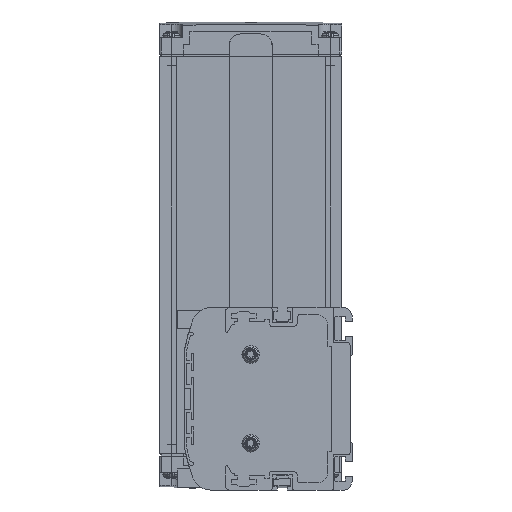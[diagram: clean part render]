
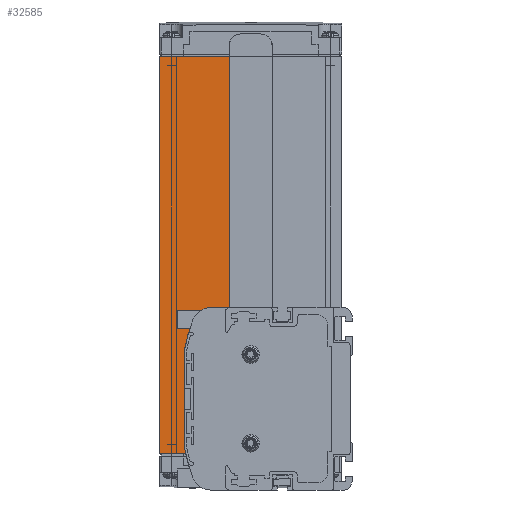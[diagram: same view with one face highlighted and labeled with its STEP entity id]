
A CAD part, left-side view. The second image highlights one B-rep face of the part: STEP entity #32585.
In plain terms, the highlighted planar face has unit normal (-1, 0, 0).
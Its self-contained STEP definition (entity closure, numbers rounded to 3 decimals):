
#7831=DIRECTION('',(0.,-1.,0.));
#7832=VECTOR('',#7831,11.203);
#7833=CARTESIAN_POINT('',(3.,82.5,-23.5));
#7834=LINE('',#7833,#7832);
#7835=DIRECTION('',(0.,0.,-1.));
#7836=VECTOR('',#7835,170.);
#7837=CARTESIAN_POINT('',(3.,82.5,146.5));
#7838=LINE('',#7837,#7836);
#7839=DIRECTION('',(0.,1.,0.));
#7840=VECTOR('',#7839,29.9);
#7841=CARTESIAN_POINT('',(3.,52.6,146.5));
#7842=LINE('',#7841,#7840);
#7843=DIRECTION('',(0.,-1.,0.));
#7844=VECTOR('',#7843,8.155);
#7845=CARTESIAN_POINT('',(3.,60.755,39.));
#7846=LINE('',#7845,#7844);
#8657=CARTESIAN_POINT('',(3.,60.755,31.));
#8658=DIRECTION('',(-1.,0.,0.));
#8659=DIRECTION('',(0.,0.,1.));
#8660=AXIS2_PLACEMENT_3D('',#8657,#8658,#8659);
#8670=CARTESIAN_POINT('',(3.,-6.765,6.));
#8671=DIRECTION('',(1.,0.,0.));
#8672=DIRECTION('',(0.,0.984,0.177));
#8673=AXIS2_PLACEMENT_3D('',#8670,#8671,#8672);
#8675=CARTESIAN_POINT('',(3.,-6.765,6.));
#8676=DIRECTION('',(1.,0.,0.));
#8677=DIRECTION('',(0.,0.963,0.269));
#8678=AXIS2_PLACEMENT_3D('',#8675,#8676,#8677);
#8684=CARTESIAN_POINT('',(3.,70.,19.823));
#8685=DIRECTION('',(1.,0.,0.));
#8686=DIRECTION('',(0.,1.,0.));
#8687=AXIS2_PLACEMENT_3D('',#8684,#8685,#8686);
#8693=DIRECTION('',(0.,0.,1.));
#8694=VECTOR('',#8693,39.645);
#8695=CARTESIAN_POINT('',(3.,72.,-19.823));
#8696=LINE('',#8695,#8694);
#8701=CARTESIAN_POINT('',(3.,70.,-19.823));
#8702=DIRECTION('',(-1.,0.,0.));
#8703=DIRECTION('',(0.,1.,0.));
#8704=AXIS2_PLACEMENT_3D('',#8701,#8702,#8703);
#8719=CARTESIAN_POINT('',(3.,-6.765,-6.));
#8720=DIRECTION('',(1.,0.,0.));
#8721=DIRECTION('',(0.,0.976,-0.219));
#8722=AXIS2_PLACEMENT_3D('',#8719,#8720,#8721);
#8749=DIRECTION('',(0.,-1.,0.));
#8750=VECTOR('',#8749,0.209);
#8751=CARTESIAN_POINT('',(3.,70.5,27.5));
#8752=LINE('',#8751,#8750);
#8797=DIRECTION('',(0.,0.,1.));
#8798=VECTOR('',#8797,0.762);
#8799=CARTESIAN_POINT('',(3.,70.5,26.738));
#8800=LINE('',#8799,#8798);
#10960=DIRECTION('',(0.,0.,1.));
#10961=VECTOR('',#10960,107.5);
#10962=CARTESIAN_POINT('',(3.,52.6,39.));
#10963=LINE('',#10962,#10961);
#17828=CARTESIAN_POINT('',(3.,82.5,-23.5));
#17830=VERTEX_POINT('',#17828);
#17925=CARTESIAN_POINT('',(3.,52.6,146.5));
#17926=VERTEX_POINT('',#17925);
#17927=CARTESIAN_POINT('',(3.,82.5,146.5));
#17928=VERTEX_POINT('',#17927);
#17961=CARTESIAN_POINT('',(3.,70.5,27.5));
#17962=VERTEX_POINT('',#17961);
#22024=CARTESIAN_POINT('',(3.,60.755,39.));
#22025=CARTESIAN_POINT('',(3.,52.6,39.));
#22026=VERTEX_POINT('',#22024);
#22027=VERTEX_POINT('',#22025);
#22028=CARTESIAN_POINT('',(3.,71.297,-23.5));
#22030=VERTEX_POINT('',#22028);
#22040=CARTESIAN_POINT('',(3.,70.5,26.738));
#22041=VERTEX_POINT('',#22040);
#22045=CARTESIAN_POINT('',(3.,70.291,27.5));
#22047=VERTEX_POINT('',#22045);
#22054=CARTESIAN_POINT('',(3.,72.,19.823));
#22055=CARTESIAN_POINT('',(3.,71.968,20.177));
#22056=VERTEX_POINT('',#22054);
#22057=VERTEX_POINT('',#22055);
#22058=CARTESIAN_POINT('',(3.,68.257,33.778));
#22059=VERTEX_POINT('',#22058);
#22072=CARTESIAN_POINT('',(3.,71.968,-20.177));
#22073=VERTEX_POINT('',#22072);
#22074=CARTESIAN_POINT('',(3.,72.,-19.823));
#22075=VERTEX_POINT('',#22074);
#32551=CARTESIAN_POINT('',(3.,67.55,61.5));
#32552=DIRECTION('',(1.,0.,0.));
#32553=DIRECTION('',(0.,-1.,0.));
#32554=AXIS2_PLACEMENT_3D('',#32551,#32552,#32553);
#32555=PLANE('',#32554);
#32557=ORIENTED_EDGE('',*,*,#32556,.F.);
#32559=ORIENTED_EDGE('',*,*,#32558,.T.);
#32561=ORIENTED_EDGE('',*,*,#32560,.F.);
#32563=ORIENTED_EDGE('',*,*,#32562,.F.);
#32565=ORIENTED_EDGE('',*,*,#32564,.F.);
#32567=ORIENTED_EDGE('',*,*,#32566,.F.);
#32569=ORIENTED_EDGE('',*,*,#32568,.F.);
#32571=ORIENTED_EDGE('',*,*,#32570,.F.);
#32573=ORIENTED_EDGE('',*,*,#32572,.T.);
#32575=ORIENTED_EDGE('',*,*,#32574,.F.);
#32576=ORIENTED_EDGE('',*,*,#22751,.F.);
#32578=ORIENTED_EDGE('',*,*,#32577,.F.);
#32580=ORIENTED_EDGE('',*,*,#32579,.F.);
#32582=ORIENTED_EDGE('',*,*,#32581,.F.);
#32583=EDGE_LOOP('',(#32557,#32559,#32561,#32563,#32565,#32567,#32569,#32571,
#32573,#32575,#32576,#32578,#32580,#32582));
#32584=FACE_OUTER_BOUND('',#32583,.F.);
#32585=ADVANCED_FACE('',(#32584),#32555,.F.);
#8661=CIRCLE('',#8660,8.);
#8674=CIRCLE('',#8673,80.);
#8679=CIRCLE('',#8678,80.);
#8688=CIRCLE('',#8687,2.);
#8705=CIRCLE('',#8704,2.);
#8723=CIRCLE('',#8722,80.);
#22751=EDGE_CURVE('',#17830,#22030,#7834,.T.);
#32556=EDGE_CURVE('',#22026,#22027,#7846,.T.);
#32558=EDGE_CURVE('',#22026,#22059,#8661,.T.);
#32560=EDGE_CURVE('',#22047,#22059,#8679,.T.);
#32562=EDGE_CURVE('',#17962,#22047,#8752,.T.);
#32564=EDGE_CURVE('',#22041,#17962,#8800,.T.);
#32566=EDGE_CURVE('',#22057,#22041,#8674,.T.);
#32568=EDGE_CURVE('',#22056,#22057,#8688,.T.);
#32570=EDGE_CURVE('',#22075,#22056,#8696,.T.);
#32572=EDGE_CURVE('',#22075,#22073,#8705,.T.);
#32574=EDGE_CURVE('',#22030,#22073,#8723,.T.);
#32577=EDGE_CURVE('',#17928,#17830,#7838,.T.);
#32579=EDGE_CURVE('',#17926,#17928,#7842,.T.);
#32581=EDGE_CURVE('',#22027,#17926,#10963,.T.);
